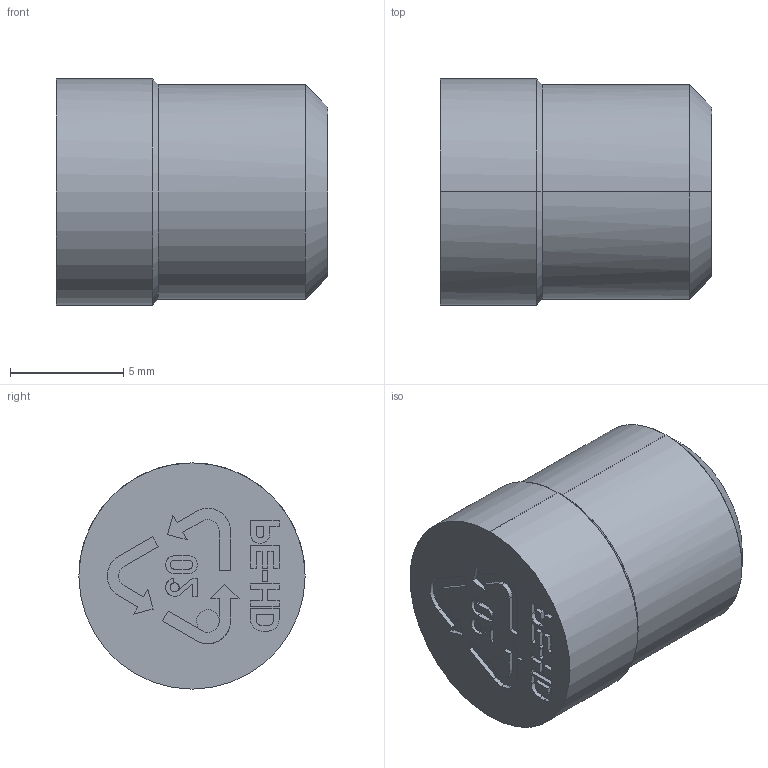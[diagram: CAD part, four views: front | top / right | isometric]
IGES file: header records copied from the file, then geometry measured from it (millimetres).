
Start section: START RECORD GO HERE.
Global section: file name: MSO210.igs; native system: DASSAULT SYSTEMES CATIA V5 R20 - www.3ds.com; preprocessor: CATIA Version 5 Release 20 ; author: Utente; organization: NB04-ASUS; date: 20210326.144148; units: millimetre
Bounding box: 12 x 10 x 10 mm (x, y, z)
Surface area: 580 mm2 (no closed solid volume)
Topology: 0 solids, 0 shells, 137 faces, 746 edges, 740 vertices
Faces by surface type: plane 97, revolution 40
